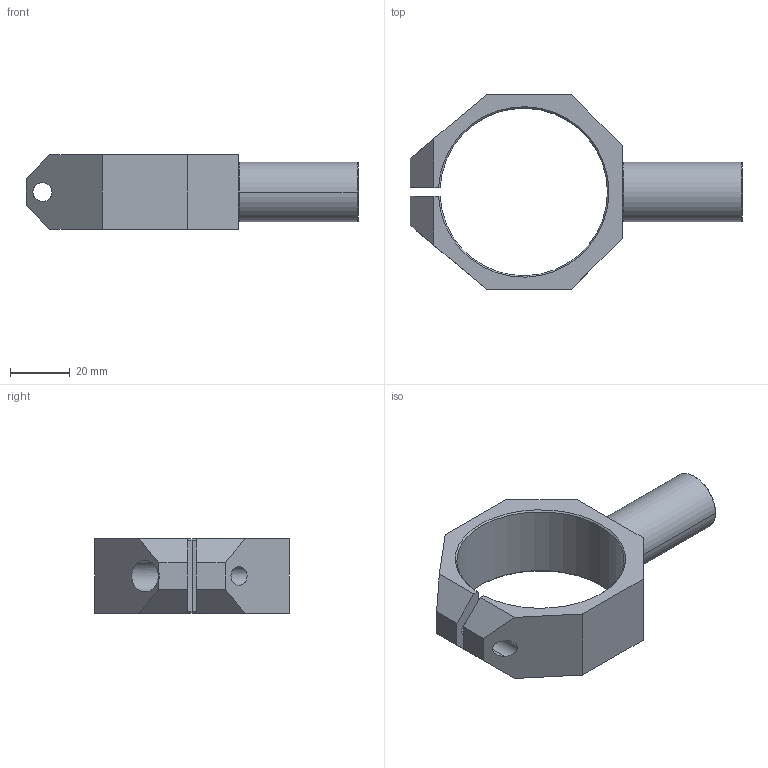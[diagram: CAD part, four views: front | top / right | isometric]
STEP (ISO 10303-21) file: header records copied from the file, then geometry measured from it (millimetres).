
FILE_DESCRIPTION (( 'STEP AP214' ), '1' );
FILE_NAME ('SCE-NR30.STEP', '2019-11-19T01:01:18', ( '微软用户' ), ( '微软中国' ), 'SwSTEP 2.0', 'SolidWorks 2016', '' );
FILE_SCHEMA (( 'AUTOMOTIVE_DESIGN' ));
Length unit declared in the file: millimetre
Products named in the file (1): SCE-NR30
Bounding box: 111 x 65 x 25 mm (x, y, z)
Volume: 36420.4 mm3; surface area: 16932 mm2
Topology: 1 solids, 1 shells, 42 faces, 105 edges, 66 vertices
Faces by surface type: plane 19, cylinder 12, cone 9, torus 2
Entity records: 1280 total; most frequent: CARTESIAN_POINT 236, DIRECTION 212, ORIENTED_EDGE 206, EDGE_CURVE 103, AXIS2_PLACEMENT_3D 74, VERTEX_POINT 66, LINE 64, VECTOR 64
